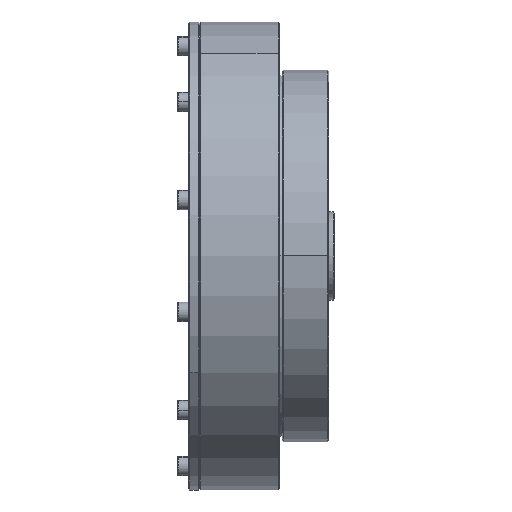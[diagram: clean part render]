
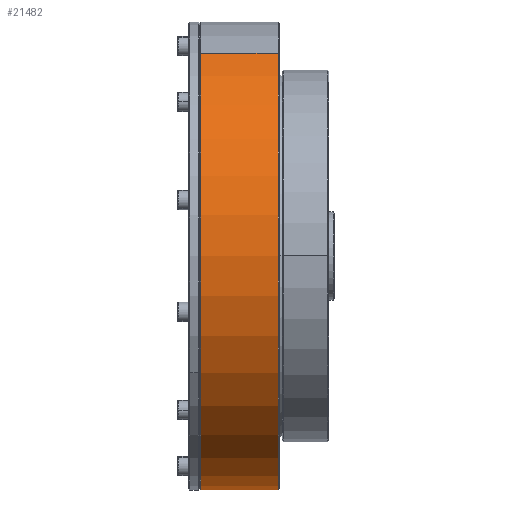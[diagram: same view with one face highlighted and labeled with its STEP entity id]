
A CAD part, top view. The second image highlights one B-rep face of the part: STEP entity #21482.
In plain terms, the highlighted cylindrical face has radius 85 mm (diameter 170 mm), a partial arc.
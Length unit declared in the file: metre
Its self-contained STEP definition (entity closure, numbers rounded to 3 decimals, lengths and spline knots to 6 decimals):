
#788 = DIRECTION ( 'NONE',  ( 1., 0., 0. ) ) ;
#853 = VERTEX_POINT ( 'NONE', #28149 ) ;
#1372 = LINE ( 'NONE', #19221, #15271 ) ;
#4261 = CIRCLE ( 'NONE', #26539, 0.085 ) ;
#5487 = ORIENTED_EDGE ( 'NONE', *, *, #23841, .F. ) ;
#8176 = VERTEX_POINT ( 'NONE', #17484 ) ;
#9213 = LINE ( 'NONE', #19579, #33323 ) ;
#10879 = EDGE_CURVE ( 'NONE', #25658, #8176, #9213, .T. ) ;
#11924 = DIRECTION ( 'NONE',  ( 0., 0.866, 0.5 ) ) ;
#15271 = VECTOR ( 'NONE', #17010, 1. ) ;
#15699 = CARTESIAN_POINT ( 'NONE',  ( -0.021, 0., 0. ) ) ;
#16325 = DIRECTION ( 'NONE',  ( 1., 0., 0. ) ) ;
#17010 = DIRECTION ( 'NONE',  ( 1., 0., 0. ) ) ;
#17484 = CARTESIAN_POINT ( 'NONE',  ( 0.007, -0.073612, -0.0425 ) ) ;
#18962 = VERTEX_POINT ( 'NONE', #28793 ) ;
#18977 = EDGE_CURVE ( 'NONE', #18962, #25658, #21677, .T. ) ;
#19221 = CARTESIAN_POINT ( 'NONE',  ( 0.029966, 0.073612, 0.0425 ) ) ;
#19579 = CARTESIAN_POINT ( 'NONE',  ( 0.029966, -0.073612, -0.0425 ) ) ;
#19691 = CARTESIAN_POINT ( 'NONE',  ( -0.021, -0.073612, -0.0425 ) ) ;
#19756 = DIRECTION ( 'NONE',  ( -1., 0., 0. ) ) ;
#20083 = EDGE_CURVE ( 'NONE', #8176, #853, #4261, .T. ) ;
#20727 = ORIENTED_EDGE ( 'NONE', *, *, #18977, .T. ) ;
#21032 = CYLINDRICAL_SURFACE ( 'NONE', #30393, 0.085 ) ;
#21482 = ADVANCED_FACE ( 'NONE', ( #24252 ), #21032, .T. ) ;
#21597 = DIRECTION ( 'NONE',  ( 0., 0.866, 0.5 ) ) ;
#21677 = CIRCLE ( 'NONE', #32000, 0.085 ) ;
#22475 = DIRECTION ( 'NONE',  ( 1., 0., 0. ) ) ;
#23841 = EDGE_CURVE ( 'NONE', #18962, #853, #1372, .T. ) ;
#23931 = CARTESIAN_POINT ( 'NONE',  ( 0.029966, 0., 0. ) ) ;
#24252 = FACE_OUTER_BOUND ( 'NONE', #32060, .T. ) ;
#24366 = CARTESIAN_POINT ( 'NONE',  ( 0.007, 0., 0. ) ) ;
#25658 = VERTEX_POINT ( 'NONE', #19691 ) ;
#26539 = AXIS2_PLACEMENT_3D ( 'NONE', #24366, #19756, #11924 ) ;
#27894 = ORIENTED_EDGE ( 'NONE', *, *, #10879, .T. ) ;
#28149 = CARTESIAN_POINT ( 'NONE',  ( 0.007, 0.073612, 0.0425 ) ) ;
#28793 = CARTESIAN_POINT ( 'NONE',  ( -0.021, 0.073612, 0.0425 ) ) ;
#30393 = AXIS2_PLACEMENT_3D ( 'NONE', #23931, #788, #32065 ) ;
#32000 = AXIS2_PLACEMENT_3D ( 'NONE', #15699, #16325, #21597 ) ;
#32060 = EDGE_LOOP ( 'NONE', ( #20727, #27894, #33644, #5487 ) ) ;
#32065 = DIRECTION ( 'NONE',  ( 0., 0.866, 0.5 ) ) ;
#33323 = VECTOR ( 'NONE', #22475, 1. ) ;
#33644 = ORIENTED_EDGE ( 'NONE', *, *, #20083, .T. ) ;
